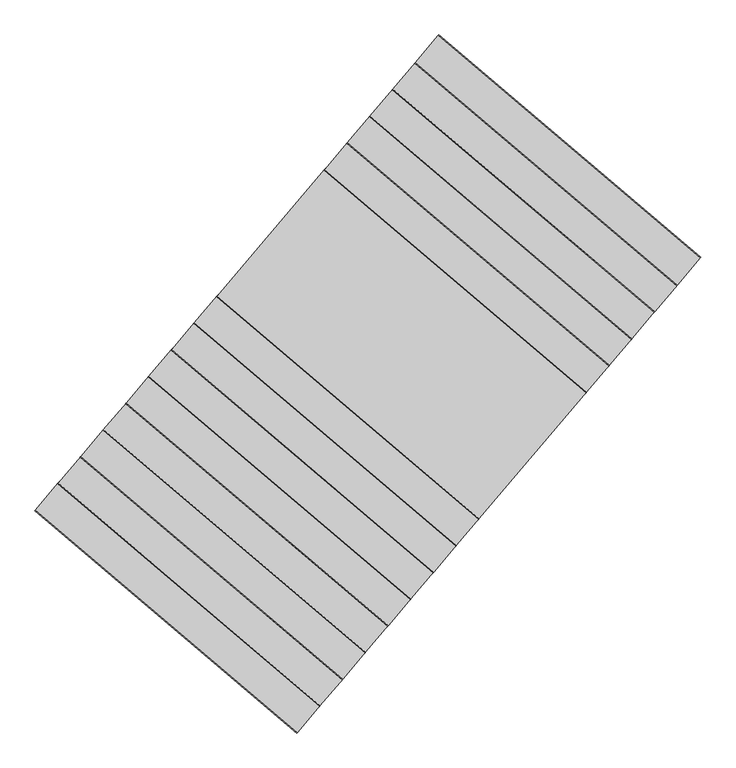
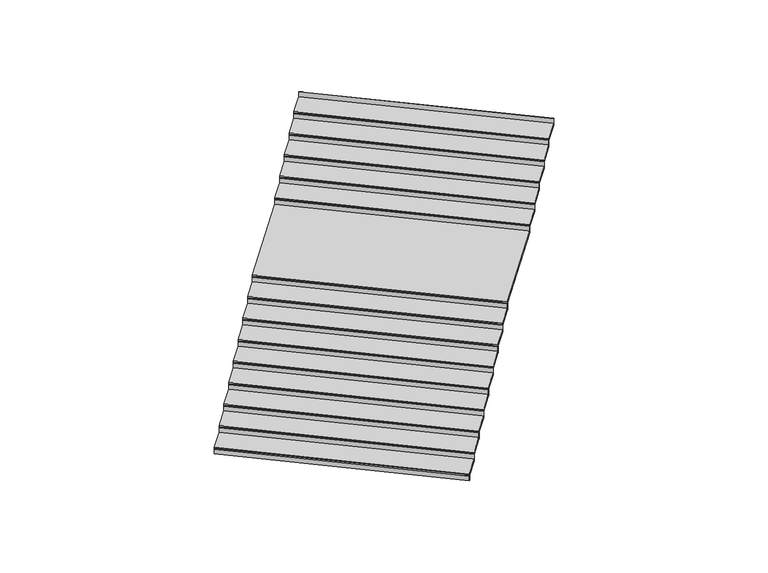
"""IFC4 building model written with IfcOpenShell, lengths in millimetres: stair flight geometry, Wood Steps with 50 mm Tread 20 mm Nosing 13 mm Riser."""

from ifc_helpers import new_model, si_unit, frame, origin, place, context, project, spatial, circle_curve, ellipse_curve, faceted_brep, source, transform, mapped, element, save
from ifc_brep_helpers import plane_surface, cylinder_surface, advanced_brep


def stair_flight_4f862e5f(model_context):
    return source(origin(), model_context, "Body", "SolidModel", [
        advanced_brep(
        [(923803.5182011, -27656.3931003, 5159.2941176), (923803.5182011, -27656.3931003, 5179.2941176), (919409.9283257, -23924.7444547, 5179.2941176), (919409.9283257, -23924.7444547, 5159.2941176), (919797.3389416, -23468.6650013, 5179.2941176), (924190.9030225, -27200.2917385, 5179.2941176), (919409.9283257, -23924.7444547, 5129.2941176), (919797.3389416, -23468.6650013, 5129.2941176), (924190.9030225, -27200.2917385, 5129.2941176), (923803.5182011, -27656.3931003, 5129.2941176)],
        [
            (0, 1, circle_curve(frame((923803.5182011, -27656.3931003, 5169.2941176), z_axis=(-0.7621877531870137, 0.6473560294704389, 0.0), x_axis=(0.6473560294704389, 0.7621877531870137, 0.0)), 10.0)),
            (1, 2),
            (2, 3, ellipse_curve(frame((919409.9283257, -23924.7444547, 5169.2941176), z_axis=(0.7621511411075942, -0.6473991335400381, 0.0), x_axis=(0.6473991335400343, 0.7621511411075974, 0.0)), 10.0, 10.0)),
            (3, 0),
            (4, 2),
            (1, 5),
            (5, 4),
            (6, 7),
            (7, 8),
            (8, 9),
            (9, 6),
            (4, 7),
            (6, 3),
            (9, 0),
            (8, 5),
        ],
        [
            cylinder_surface(frame((923803.5182011, -27656.3931003, 5169.2941176), z_axis=(0.7621877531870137, -0.6473560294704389, 0.0), x_axis=(0.6473560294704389, 0.7621877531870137, 0.0)), 10.0),
            plane_surface(frame((918833.8329872, -24602.9531469, 5179.2941176), z_axis=(0.0, 0.0, 1.0), x_axis=(-0.6473991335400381, -0.7621511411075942, 0.0))),
            plane_surface(frame((918833.8329872, -24602.9531469, 5129.2941176), z_axis=(0.0, 0.0, -1.0), x_axis=(0.6473991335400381, 0.7621511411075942, 0.0))),
            plane_surface(frame((919797.3389416, -23468.6650013, 5179.2941176), z_axis=(-0.7621511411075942, 0.6473991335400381, 0.0), x_axis=(0.0, 0.0, -1.0))),
            plane_surface(frame((919409.9283257, -23924.7444547, 5179.2941176), z_axis=(-0.6473560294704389, -0.7621877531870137, 0.0), x_axis=(0.0, 0.0, -1.0))),
            plane_surface(frame((923803.5182011, -27656.3931003, 5179.2941176), z_axis=(0.7621877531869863, -0.6473560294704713, 0.0), x_axis=(0.0, 0.0, -1.0))),
            plane_surface(frame((924190.9030225, -27200.2917385, 5179.2941176), z_axis=(0.647356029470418, 0.7621877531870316, 0.0), x_axis=(0.0, 0.0, -1.0))),
        ],
        [
            (0, [[1, 2, 3, 4]]),
            (1, [[5, -2, 6, 7]]),
            (2, [[8, 9, 10, 11]]),
            (3, [[-5, 12, -8, 13, -3]]),
            (4, [[-11, 14, -4, -13]]),
            (5, [[-6, -1, -14, -10, 15]]),
            (6, [[-7, -15, -9, -12]]),
        ],
    ),
        faceted_brep([(923809.9917614, -27648.7712228, 5129.2941176), (923809.9917614, -27648.7712228, 5000.0), (923818.0837118, -27639.2438758, 5000.0), (923818.0837118, -27639.2438758, 5129.2941176), (919416.4023171, -23917.1229433, 5129.2941176), (919424.4948063, -23907.596054, 5129.2941176), (919424.4948063, -23907.596054, 5000.0), (919416.4023171, -23917.1229433, 5000.0)], [[[0, 1, 2, 3]], [[4, 5, 6, 7]], [[1, 0, 4, 7]], [[2, 1, 7, 6]], [[3, 2, 6, 5]], [[0, 3, 5, 4]]]),
        faceted_brep([(924190.9030225, -27200.2917385, 5308.5882353), (924190.9030225, -27200.2917385, 5129.2941176), (924198.9949728, -27190.7643916, 5129.2941176), (924198.9949728, -27190.7643916, 5308.5882353), (919797.3389416, -23468.6650013, 5308.5882353), (919805.4314308, -23459.138112, 5308.5882353), (919805.4314308, -23459.138112, 5129.2941176), (919797.3389416, -23468.6650013, 5129.2941176)], [[[0, 1, 2, 3]], [[4, 5, 6, 7]], [[1, 0, 4, 7]], [[2, 1, 7, 6]], [[3, 2, 6, 5]], [[0, 3, 5, 4]]]),
        advanced_brep(
        [(920178.2755662, -23020.2070592, 5358.5882353), (919790.8649503, -23476.2865127, 5358.5882353), (924184.4294622, -27207.913616, 5358.5882353), (924571.8142835, -26751.8122542, 5358.5882353), (919790.8649503, -23476.2865127, 5308.5882353), (920178.2755662, -23020.2070592, 5308.5882353), (924571.8142835, -26751.8122542, 5308.5882353), (924184.4294622, -27207.913616, 5308.5882353), (919790.8649503, -23476.2865127, 5338.5882353), (924184.4294622, -27207.913616, 5338.5882353)],
        [
            (0, 1),
            (1, 2),
            (2, 3),
            (3, 0),
            (4, 5),
            (5, 6),
            (6, 7),
            (7, 4),
            (0, 5),
            (4, 8),
            (8, 1, ellipse_curve(frame((919790.8649503, -23476.2865127, 5348.5882353), z_axis=(-0.7621511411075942, 0.6473991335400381, 0.0), x_axis=(0.6473991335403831, 0.7621511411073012, 0.0)), 10.0, 10.0)),
            (7, 9),
            (9, 8),
            (2, 9, circle_curve(frame((924184.4294622, -27207.913616, 5348.5882353), z_axis=(0.7621877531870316, -0.647356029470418, 0.0), x_axis=(0.647356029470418, 0.7621877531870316, 0.0)), 10.0)),
            (6, 3),
        ],
        [
            plane_surface(frame((918833.8329872, -24602.9531469, 5358.5882353), z_axis=(0.0, 0.0, 1.0), x_axis=(-0.6473991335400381, -0.7621511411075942, 0.0))),
            plane_surface(frame((918833.8329872, -24602.9531469, 5308.5882353), z_axis=(0.0, 0.0, -1.0), x_axis=(0.6473991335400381, 0.7621511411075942, 0.0))),
            plane_surface(frame((920178.2755662, -23020.2070592, 5358.5882353), z_axis=(-0.7621511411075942, 0.6473991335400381, 0.0), x_axis=(0.0, 0.0, -1.0))),
            plane_surface(frame((919790.8649503, -23476.2865127, 5358.5882353), z_axis=(-0.647356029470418, -0.7621877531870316, 0.0), x_axis=(0.0, 0.0, -1.0))),
            plane_surface(frame((924184.4294622, -27207.913616, 5358.5882353), z_axis=(0.7621877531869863, -0.6473560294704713, 0.0), x_axis=(0.0, 0.0, -1.0))),
            plane_surface(frame((924571.8142835, -26751.8122542, 5358.5882353), z_axis=(0.6473560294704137, 0.7621877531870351, 0.0), x_axis=(0.0, 0.0, -1.0))),
            cylinder_surface(frame((924184.4294622, -27207.913616, 5348.5882353), z_axis=(0.7621877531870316, -0.647356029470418, 0.0), x_axis=(0.647356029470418, 0.7621877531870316, 0.0)), 10.0),
        ],
        [
            (0, [[1, 2, 3, 4]]),
            (1, [[5, 6, 7, 8]]),
            (2, [[-1, 9, -5, 10, 11]]),
            (3, [[-8, 12, 13, -10]]),
            (4, [[-3, 14, -12, -7, 15]]),
            (5, [[-4, -15, -6, -9]]),
            (6, [[-14, -2, -11, -13]]),
        ],
    ),
        faceted_brep([(924571.8142835, -26751.8122542, 5487.8823529), (924571.8142835, -26751.8122542, 5308.5882353), (924579.9062339, -26742.2849073, 5308.5882353), (924579.9062339, -26742.2849073, 5487.8823529), (920178.2755662, -23020.2070592, 5487.8823529), (920186.3680554, -23010.68017, 5487.8823529), (920186.3680554, -23010.68017, 5308.5882353), (920178.2755662, -23020.2070592, 5308.5882353)], [[[0, 1, 2, 3]], [[4, 5, 6, 7]], [[1, 0, 4, 7]], [[2, 1, 7, 6]], [[3, 2, 6, 5]], [[0, 3, 5, 4]]]),
        advanced_brep(
        [(920559.2121908, -22571.7491172, 5537.8823529), (920171.8015749, -23027.8285707, 5537.8823529), (924565.3407232, -26759.4341318, 5537.8823529), (924952.7255446, -26303.33277, 5537.8823529), (920171.8015749, -23027.8285707, 5487.8823529), (920559.2121908, -22571.7491172, 5487.8823529), (924952.7255446, -26303.33277, 5487.8823529), (924565.3407232, -26759.4341318, 5487.8823529), (920171.8015749, -23027.8285707, 5517.8823529), (924565.3407232, -26759.4341318, 5517.8823529)],
        [
            (0, 1),
            (1, 2),
            (2, 3),
            (3, 0),
            (4, 5),
            (5, 6),
            (6, 7),
            (7, 4),
            (0, 5),
            (4, 8),
            (8, 1, ellipse_curve(frame((920171.8015749, -23027.8285707, 5527.8823529), z_axis=(-0.7621511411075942, 0.6473991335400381, 0.0), x_axis=(0.6473991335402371, 0.7621511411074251, 0.0)), 10.0, 10.0)),
            (7, 9),
            (9, 8),
            (2, 9, circle_curve(frame((924565.3407232, -26759.4341318, 5527.8823529), z_axis=(0.7621877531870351, -0.6473560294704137, 0.0), x_axis=(0.6473560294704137, 0.7621877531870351, 0.0)), 10.0)),
            (6, 3),
        ],
        [
            plane_surface(frame((918833.8329872, -24602.9531469, 5537.8823529), z_axis=(0.0, 0.0, 1.0), x_axis=(-0.6473991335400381, -0.7621511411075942, 0.0))),
            plane_surface(frame((918833.8329872, -24602.9531469, 5487.8823529), z_axis=(0.0, 0.0, -1.0), x_axis=(0.6473991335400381, 0.7621511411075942, 0.0))),
            plane_surface(frame((920559.2121908, -22571.7491172, 5537.8823529), z_axis=(-0.7621511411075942, 0.6473991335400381, 0.0), x_axis=(0.0, 0.0, -1.0))),
            plane_surface(frame((920171.8015749, -23027.8285707, 5537.8823529), z_axis=(-0.6473560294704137, -0.7621877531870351, 0.0), x_axis=(0.0, 0.0, -1.0))),
            plane_surface(frame((924565.3407232, -26759.4341318, 5537.8823529), z_axis=(0.7621877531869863, -0.6473560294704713, 0.0), x_axis=(0.0, 0.0, -1.0))),
            plane_surface(frame((924952.7255446, -26303.33277, 5537.8823529), z_axis=(0.6473560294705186, 0.7621877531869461, 0.0), x_axis=(0.0, 0.0, -1.0))),
            cylinder_surface(frame((924565.3407232, -26759.4341318, 5527.8823529), z_axis=(0.7621877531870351, -0.6473560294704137, 0.0), x_axis=(0.6473560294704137, 0.7621877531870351, 0.0)), 10.0),
        ],
        [
            (0, [[1, 2, 3, 4]]),
            (1, [[5, 6, 7, 8]]),
            (2, [[-1, 9, -5, 10, 11]]),
            (3, [[-8, 12, 13, -10]]),
            (4, [[-3, 14, -12, -7, 15]]),
            (5, [[-4, -15, -6, -9]]),
            (6, [[-14, -2, -11, -13]]),
        ],
    ),
        faceted_brep([(924952.7255446, -26303.33277, 5667.1764706), (924952.7255446, -26303.33277, 5487.8823529), (924960.8174949, -26293.8054231, 5487.8823529), (924960.8174949, -26293.8054231, 5667.1764706), (920559.2121908, -22571.7491172, 5667.1764706), (920567.3046799, -22562.2222279, 5667.1764706), (920567.3046799, -22562.2222279, 5487.8823529), (920559.2121908, -22571.7491172, 5487.8823529)], [[[0, 1, 2, 3]], [[4, 5, 6, 7]], [[1, 0, 4, 7]], [[2, 1, 7, 6]], [[3, 2, 6, 5]], [[0, 3, 5, 4]]]),
        advanced_brep(
        [(920940.1488153, -22123.2911752, 5717.1764706), (920552.7381994, -22579.3706286, 5717.1764706), (924946.2519843, -26310.9546475, 5717.1764706), (925333.6368056, -25854.8532857, 5717.1764706), (920552.7381994, -22579.3706286, 5667.1764706), (920940.1488153, -22123.2911752, 5667.1764706), (925333.6368056, -25854.8532857, 5667.1764706), (924946.2519843, -26310.9546475, 5667.1764706), (920552.7381994, -22579.3706286, 5697.1764706), (924946.2519843, -26310.9546475, 5697.1764706)],
        [
            (0, 1),
            (1, 2),
            (2, 3),
            (3, 0),
            (4, 5),
            (5, 6),
            (6, 7),
            (7, 4),
            (0, 5),
            (4, 8),
            (8, 1, ellipse_curve(frame((920552.7381994, -22579.3706286, 5707.1764706), z_axis=(-0.7621511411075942, 0.6473991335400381, 0.0), x_axis=(0.6473991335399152, 0.7621511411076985, 0.0)), 10.0, 10.0)),
            (7, 9),
            (9, 8),
            (2, 9, circle_curve(frame((924946.2519843, -26310.9546475, 5707.1764706), z_axis=(0.7621877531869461, -0.6473560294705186, 0.0), x_axis=(0.6473560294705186, 0.7621877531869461, 0.0)), 10.0)),
            (6, 3),
        ],
        [
            plane_surface(frame((918833.8329872, -24602.9531469, 5717.1764706), z_axis=(0.0, 0.0, 1.0), x_axis=(-0.6473991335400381, -0.7621511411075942, 0.0))),
            plane_surface(frame((918833.8329872, -24602.9531469, 5667.1764706), z_axis=(0.0, 0.0, -1.0), x_axis=(0.6473991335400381, 0.7621511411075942, 0.0))),
            plane_surface(frame((920940.1488153, -22123.2911752, 5717.1764706), z_axis=(-0.7621511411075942, 0.6473991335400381, 0.0), x_axis=(0.0, 0.0, -1.0))),
            plane_surface(frame((920552.7381994, -22579.3706286, 5717.1764706), z_axis=(-0.6473560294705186, -0.7621877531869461, 0.0), x_axis=(0.0, 0.0, -1.0))),
            plane_surface(frame((924946.2519843, -26310.9546475, 5717.1764706), z_axis=(0.7621877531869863, -0.6473560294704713, 0.0), x_axis=(0.0, 0.0, -1.0))),
            plane_surface(frame((925333.6368056, -25854.8532857, 5717.1764706), z_axis=(0.6473560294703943, 0.7621877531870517, 0.0), x_axis=(0.0, 0.0, -1.0))),
            cylinder_surface(frame((924946.2519843, -26310.9546475, 5707.1764706), z_axis=(0.7621877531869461, -0.6473560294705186, 0.0), x_axis=(0.6473560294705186, 0.7621877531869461, 0.0)), 10.0),
        ],
        [
            (0, [[1, 2, 3, 4]]),
            (1, [[5, 6, 7, 8]]),
            (2, [[-1, 9, -5, 10, 11]]),
            (3, [[-8, 12, 13, -10]]),
            (4, [[-3, 14, -12, -7, 15]]),
            (5, [[-4, -15, -6, -9]]),
            (6, [[-14, -2, -11, -13]]),
        ],
    ),
        faceted_brep([(925333.6368056, -25854.8532857, 5846.4705882), (925333.6368056, -25854.8532857, 5667.1764706), (925341.728756, -25845.3259388, 5667.1764706), (925341.728756, -25845.3259388, 5846.4705882), (920940.1488153, -22123.2911752, 5846.4705882), (920948.2413045, -22113.7642859, 5846.4705882), (920948.2413045, -22113.7642859, 5667.1764706), (920940.1488153, -22123.2911752, 5667.1764706)], [[[0, 1, 2, 3]], [[4, 5, 6, 7]], [[1, 0, 4, 7]], [[2, 1, 7, 6]], [[3, 2, 6, 5]], [[0, 3, 5, 4]]]),
        advanced_brep(
        [(921321.0854399, -21674.8332331, 5896.4705882), (920933.674824, -22130.9126866, 5896.4705882), (925327.1632453, -25862.4751633, 5896.4705882), (925714.5480667, -25406.3738015, 5896.4705882), (920933.674824, -22130.9126866, 5846.4705882), (921321.0854399, -21674.8332331, 5846.4705882), (925714.5480667, -25406.3738015, 5846.4705882), (925327.1632453, -25862.4751633, 5846.4705882), (920933.674824, -22130.9126866, 5876.4705882), (925327.1632453, -25862.4751633, 5876.4705882)],
        [
            (0, 1),
            (1, 2),
            (2, 3),
            (3, 0),
            (4, 5),
            (5, 6),
            (6, 7),
            (7, 4),
            (0, 5),
            (4, 8),
            (8, 1, ellipse_curve(frame((920933.674824, -22130.9126866, 5886.4705882), z_axis=(-0.7621511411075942, 0.6473991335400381, 0.0), x_axis=(0.6473991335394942, 0.762151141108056, 0.0)), 10.0, 10.0)),
            (7, 9),
            (9, 8),
            (2, 9, circle_curve(frame((925327.1632453, -25862.4751633, 5886.4705882), z_axis=(0.7621877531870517, -0.6473560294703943, 0.0), x_axis=(0.6473560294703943, 0.7621877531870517, 0.0)), 10.0)),
            (6, 3),
        ],
        [
            plane_surface(frame((918833.8329872, -24602.9531469, 5896.4705882), z_axis=(0.0, 0.0, 1.0), x_axis=(-0.6473991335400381, -0.7621511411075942, 0.0))),
            plane_surface(frame((918833.8329872, -24602.9531469, 5846.4705882), z_axis=(0.0, 0.0, -1.0), x_axis=(0.6473991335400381, 0.7621511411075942, 0.0))),
            plane_surface(frame((921321.0854399, -21674.8332331, 5896.4705882), z_axis=(-0.7621511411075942, 0.6473991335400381, 0.0), x_axis=(0.0, 0.0, -1.0))),
            plane_surface(frame((920933.674824, -22130.9126866, 5896.4705882), z_axis=(-0.6473560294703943, -0.7621877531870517, 0.0), x_axis=(0.0, 0.0, -1.0))),
            plane_surface(frame((925327.1632453, -25862.4751633, 5896.4705882), z_axis=(0.7621877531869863, -0.6473560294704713, 0.0), x_axis=(0.0, 0.0, -1.0))),
            plane_surface(frame((925714.5480667, -25406.3738015, 5896.4705882), z_axis=(0.6473560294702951, 0.7621877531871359, 0.0), x_axis=(0.0, 0.0, -1.0))),
            cylinder_surface(frame((925327.1632453, -25862.4751633, 5886.4705882), z_axis=(0.7621877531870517, -0.6473560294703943, 0.0), x_axis=(0.6473560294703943, 0.7621877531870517, 0.0)), 10.0),
        ],
        [
            (0, [[1, 2, 3, 4]]),
            (1, [[5, 6, 7, 8]]),
            (2, [[-1, 9, -5, 10, 11]]),
            (3, [[-8, 12, 13, -10]]),
            (4, [[-3, 14, -12, -7, 15]]),
            (5, [[-4, -15, -6, -9]]),
            (6, [[-14, -2, -11, -13]]),
        ],
    ),
        faceted_brep([(925714.5480667, -25406.3738015, 6025.7647059), (925714.5480667, -25406.3738015, 5846.4705882), (925722.640017, -25396.8464546, 5846.4705882), (925722.640017, -25396.8464546, 6025.7647059), (921321.0854399, -21674.8332331, 6025.7647059), (921329.1779291, -21665.3063439, 6025.7647059), (921329.1779291, -21665.3063439, 5846.4705882), (921321.0854399, -21674.8332331, 5846.4705882)], [[[0, 1, 2, 3]], [[4, 5, 6, 7]], [[1, 0, 4, 7]], [[2, 1, 7, 6]], [[3, 2, 6, 5]], [[0, 3, 5, 4]]]),
        advanced_brep(
        [(921702.0220644, -21226.3752911, 6075.7647059), (921314.6114485, -21682.4547446, 6075.7647059), (925708.0745064, -25413.995679, 6075.7647059), (926095.4593277, -24957.8943172, 6075.7647059), (921314.6114485, -21682.4547446, 6025.7647059), (921702.0220644, -21226.3752911, 6025.7647059), (926095.4593277, -24957.8943172, 6025.7647059), (925708.0745064, -25413.995679, 6025.7647059), (921314.6114485, -21682.4547446, 6055.7647059), (925708.0745064, -25413.995679, 6055.7647059)],
        [
            (0, 1),
            (1, 2),
            (2, 3),
            (3, 0),
            (4, 5),
            (5, 6),
            (6, 7),
            (7, 4),
            (0, 5),
            (4, 8),
            (8, 1, ellipse_curve(frame((921314.6114485, -21682.4547446, 6065.7647059), z_axis=(-0.7621511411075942, 0.6473991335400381, 0.0), x_axis=(0.647399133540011, 0.7621511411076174, 0.0)), 10.0, 10.0)),
            (7, 9),
            (9, 8),
            (2, 9, circle_curve(frame((925708.0745064, -25413.995679, 6065.7647059), z_axis=(0.7621877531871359, -0.6473560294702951, 0.0), x_axis=(0.6473560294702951, 0.7621877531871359, 0.0)), 10.0)),
            (6, 3),
        ],
        [
            plane_surface(frame((918833.8329872, -24602.9531469, 6075.7647059), z_axis=(0.0, 0.0, 1.0), x_axis=(-0.6473991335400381, -0.7621511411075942, 0.0))),
            plane_surface(frame((918833.8329872, -24602.9531469, 6025.7647059), z_axis=(0.0, 0.0, -1.0), x_axis=(0.6473991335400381, 0.7621511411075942, 0.0))),
            plane_surface(frame((921702.0220644, -21226.3752911, 6075.7647059), z_axis=(-0.7621511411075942, 0.6473991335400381, 0.0), x_axis=(0.0, 0.0, -1.0))),
            plane_surface(frame((921314.6114485, -21682.4547446, 6075.7647059), z_axis=(-0.6473560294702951, -0.7621877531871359, 0.0), x_axis=(0.0, 0.0, -1.0))),
            plane_surface(frame((925708.0745064, -25413.995679, 6075.7647059), z_axis=(0.7621877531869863, -0.6473560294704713, 0.0), x_axis=(0.0, 0.0, -1.0))),
            plane_surface(frame((926095.4593277, -24957.8943172, 6075.7647059), z_axis=(0.6473560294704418, 0.7621877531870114, 0.0), x_axis=(0.0, 0.0, -1.0))),
            cylinder_surface(frame((925708.0745064, -25413.995679, 6065.7647059), z_axis=(0.7621877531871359, -0.6473560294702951, 0.0), x_axis=(0.6473560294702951, 0.7621877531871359, 0.0)), 10.0),
        ],
        [
            (0, [[1, 2, 3, 4]]),
            (1, [[5, 6, 7, 8]]),
            (2, [[-1, 9, -5, 10, 11]]),
            (3, [[-8, 12, 13, -10]]),
            (4, [[-3, 14, -12, -7, 15]]),
            (5, [[-4, -15, -6, -9]]),
            (6, [[-14, -2, -11, -13]]),
        ],
    ),
        faceted_brep([(926095.4593277, -24957.8943172, 6205.0588235), (926095.4593277, -24957.8943172, 6025.7647059), (926103.5512781, -24948.3669703, 6025.7647059), (926103.5512781, -24948.3669703, 6205.0588235), (921702.0220644, -21226.3752911, 6205.0588235), (921710.1145536, -21216.8484018, 6205.0588235), (921710.1145536, -21216.8484018, 6025.7647059), (921702.0220644, -21226.3752911, 6025.7647059)], [[[0, 1, 2, 3]], [[4, 5, 6, 7]], [[1, 0, 4, 7]], [[2, 1, 7, 6]], [[3, 2, 6, 5]], [[0, 3, 5, 4]]]),
        advanced_brep(
        [(922082.958689, -20777.9173491, 6255.0588235), (921695.5480731, -21233.9968025, 6255.0588235), (926088.9857674, -24965.5161948, 6255.0588235), (926476.3705888, -24509.414833, 6255.0588235), (921695.5480731, -21233.9968025, 6205.0588235), (922082.958689, -20777.9173491, 6205.0588235), (926476.3705888, -24509.414833, 6205.0588235), (926088.9857674, -24965.5161948, 6205.0588235), (921695.5480731, -21233.9968025, 6235.0588235), (926088.9857674, -24965.5161948, 6235.0588235)],
        [
            (0, 1),
            (1, 2),
            (2, 3),
            (3, 0),
            (4, 5),
            (5, 6),
            (6, 7),
            (7, 4),
            (0, 5),
            (4, 8),
            (8, 1, ellipse_curve(frame((921695.5480731, -21233.9968025, 6245.0588235), z_axis=(-0.7621511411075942, 0.6473991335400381, 0.0), x_axis=(0.6473991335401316, 0.7621511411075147, 0.0)), 10.0, 10.0)),
            (7, 9),
            (9, 8),
            (2, 9, circle_curve(frame((926088.9857674, -24965.5161948, 6245.0588235), z_axis=(0.7621877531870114, -0.6473560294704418, 0.0), x_axis=(0.6473560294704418, 0.7621877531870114, 0.0)), 10.0)),
            (6, 3),
        ],
        [
            plane_surface(frame((918833.8329872, -24602.9531469, 6255.0588235), z_axis=(0.0, 0.0, 1.0), x_axis=(-0.6473991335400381, -0.7621511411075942, 0.0))),
            plane_surface(frame((918833.8329872, -24602.9531469, 6205.0588235), z_axis=(0.0, 0.0, -1.0), x_axis=(0.6473991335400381, 0.7621511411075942, 0.0))),
            plane_surface(frame((922082.958689, -20777.9173491, 6255.0588235), z_axis=(-0.7621511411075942, 0.6473991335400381, 0.0), x_axis=(0.0, 0.0, -1.0))),
            plane_surface(frame((921695.5480731, -21233.9968025, 6255.0588235), z_axis=(-0.6473560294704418, -0.7621877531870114, 0.0), x_axis=(0.0, 0.0, -1.0))),
            plane_surface(frame((926088.9857674, -24965.5161948, 6255.0588235), z_axis=(0.7621877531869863, -0.6473560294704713, 0.0), x_axis=(0.0, 0.0, -1.0))),
            plane_surface(frame((926476.3705888, -24509.414833, 6255.0588235), z_axis=(0.6473560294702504, 0.7621877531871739, 0.0), x_axis=(0.0, 0.0, -1.0))),
            cylinder_surface(frame((926088.9857674, -24965.5161948, 6245.0588235), z_axis=(0.7621877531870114, -0.6473560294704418, 0.0), x_axis=(0.6473560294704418, 0.7621877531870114, 0.0)), 10.0),
        ],
        [
            (0, [[1, 2, 3, 4]]),
            (1, [[5, 6, 7, 8]]),
            (2, [[-1, 9, -5, 10, 11]]),
            (3, [[-8, 12, 13, -10]]),
            (4, [[-3, 14, -12, -7, 15]]),
            (5, [[-4, -15, -6, -9]]),
            (6, [[-14, -2, -11, -13]]),
        ],
    ),
        faceted_brep([(926476.3705888, -24509.414833, 6384.3529412), (926476.3705888, -24509.414833, 6205.0588235), (926484.4625392, -24499.8874861, 6205.0588235), (926484.4625392, -24499.8874861, 6384.3529412), (922082.958689, -20777.9173491, 6384.3529412), (922091.0511782, -20768.3904598, 6384.3529412), (922091.0511782, -20768.3904598, 6205.0588235), (922082.958689, -20777.9173491, 6205.0588235)], [[[0, 1, 2, 3]], [[4, 5, 6, 7]], [[1, 0, 4, 7]], [[2, 1, 7, 6]], [[3, 2, 6, 5]], [[0, 3, 5, 4]]]),
        advanced_brep(
        [(922463.8953136, -20329.4594071, 6434.3529412), (922076.4846977, -20785.5388605, 6434.3529412), (926469.8970285, -24517.0367105, 6434.3529412), (926857.2818498, -24060.9353487, 6434.3529412), (922076.4846977, -20785.5388605, 6384.3529412), (922463.8953136, -20329.4594071, 6384.3529412), (926857.2818498, -24060.9353487, 6384.3529412), (926469.8970285, -24517.0367105, 6384.3529412), (922076.4846977, -20785.5388605, 6414.3529412), (926469.8970285, -24517.0367105, 6414.3529412)],
        [
            (0, 1),
            (1, 2),
            (2, 3),
            (3, 0),
            (4, 5),
            (5, 6),
            (6, 7),
            (7, 4),
            (0, 5),
            (4, 8),
            (8, 1, ellipse_curve(frame((922076.4846977, -20785.5388605, 6424.3529412), z_axis=(-0.7621511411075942, 0.6473991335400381, 0.0), x_axis=(0.6473991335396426, 0.7621511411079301, 0.0)), 10.0, 10.0)),
            (7, 9),
            (9, 8),
            (2, 9, circle_curve(frame((926469.8970285, -24517.0367105, 6424.3529412), z_axis=(0.7621877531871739, -0.6473560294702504, 0.0), x_axis=(0.6473560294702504, 0.7621877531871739, 0.0)), 10.0)),
            (6, 3),
        ],
        [
            plane_surface(frame((918833.8329872, -24602.9531469, 6434.3529412), z_axis=(0.0, 0.0, 1.0), x_axis=(-0.6473991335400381, -0.7621511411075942, 0.0))),
            plane_surface(frame((918833.8329872, -24602.9531469, 6384.3529412), z_axis=(0.0, 0.0, -1.0), x_axis=(0.6473991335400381, 0.7621511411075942, 0.0))),
            plane_surface(frame((922463.8953136, -20329.4594071, 6434.3529412), z_axis=(-0.7621511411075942, 0.6473991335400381, 0.0), x_axis=(0.0, 0.0, -1.0))),
            plane_surface(frame((922076.4846977, -20785.5388605, 6434.3529412), z_axis=(-0.6473560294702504, -0.7621877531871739, 0.0), x_axis=(0.0, 0.0, -1.0))),
            plane_surface(frame((926469.8970285, -24517.0367105, 6434.3529412), z_axis=(0.7621877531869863, -0.6473560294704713, 0.0), x_axis=(0.0, 0.0, -1.0))),
            plane_surface(frame((926857.2818498, -24060.9353487, 6434.3529412), z_axis=(0.647356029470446, 0.7621877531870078, 0.0), x_axis=(0.0, 0.0, -1.0))),
            cylinder_surface(frame((926469.8970285, -24517.0367105, 6424.3529412), z_axis=(0.7621877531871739, -0.6473560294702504, 0.0), x_axis=(0.6473560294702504, 0.7621877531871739, 0.0)), 10.0),
        ],
        [
            (0, [[1, 2, 3, 4]]),
            (1, [[5, 6, 7, 8]]),
            (2, [[-1, 9, -5, 10, 11]]),
            (3, [[-8, 12, 13, -10]]),
            (4, [[-3, 14, -12, -7, 15]]),
            (5, [[-4, -15, -6, -9]]),
            (6, [[-14, -2, -11, -13]]),
        ],
    ),
        faceted_brep([(926857.2818498, -24060.9353487, 6563.6470588), (926857.2818498, -24060.9353487, 6384.3529412), (926865.3738002, -24051.4080018, 6384.3529412), (926865.3738002, -24051.4080018, 6563.6470588), (922463.8953136, -20329.4594071, 6563.6470588), (922471.9878027, -20319.9325178, 6563.6470588), (922471.9878027, -20319.9325178, 6384.3529412), (922463.8953136, -20329.4594071, 6384.3529412)], [[[0, 1, 2, 3]], [[4, 5, 6, 7]], [[1, 0, 4, 7]], [[2, 1, 7, 6]], [[3, 2, 6, 5]], [[0, 3, 5, 4]]]),
        advanced_brep(
        [(924266.9953365, -18206.7584815, 6613.6470588), (922457.4213222, -20337.0809185, 6613.6470588), (926850.8082895, -24068.5572263, 6613.6470588), (928660.2618188, -21938.1324566, 6613.6470588), (922457.4213222, -20337.0809185, 6563.6470588), (924266.9953365, -18206.7584815, 6563.6470588), (928660.2618188, -21938.1324566, 6563.6470588), (926850.8082895, -24068.5572263, 6563.6470588), (922457.4213222, -20337.0809185, 6593.6470588), (926850.8082895, -24068.5572263, 6593.6470588)],
        [
            (0, 1),
            (1, 2),
            (2, 3),
            (3, 0),
            (4, 5),
            (5, 6),
            (6, 7),
            (7, 4),
            (0, 5),
            (4, 8),
            (8, 1, ellipse_curve(frame((922457.4213222, -20337.0809185, 6603.6470588), z_axis=(-0.7621511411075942, 0.6473991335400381, 0.0), x_axis=(0.6473991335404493, 0.7621511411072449, 0.0)), 10.0, 10.0)),
            (7, 9),
            (9, 8),
            (2, 9, circle_curve(frame((926850.8082895, -24068.5572263, 6603.6470588), z_axis=(0.7621877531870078, -0.647356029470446, 0.0), x_axis=(0.647356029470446, 0.7621877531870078, 0.0)), 10.0)),
            (6, 3),
        ],
        [
            plane_surface(frame((918833.8329872, -24602.9531469, 6613.6470588), z_axis=(0.0, 0.0, 1.0), x_axis=(-0.6473991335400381, -0.7621511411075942, 0.0))),
            plane_surface(frame((918833.8329872, -24602.9531469, 6563.6470588), z_axis=(0.0, 0.0, -1.0), x_axis=(0.6473991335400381, 0.7621511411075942, 0.0))),
            plane_surface(frame((924266.9953365, -18206.7584815, 6613.6470588), z_axis=(-0.7621511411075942, 0.6473991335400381, 0.0), x_axis=(0.0, 0.0, -1.0))),
            plane_surface(frame((922457.4213222, -20337.0809185, 6613.6470588), z_axis=(-0.647356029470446, -0.7621877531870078, 0.0), x_axis=(0.0, 0.0, -1.0))),
            plane_surface(frame((926850.8082895, -24068.5572263, 6613.6470588), z_axis=(0.7621877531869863, -0.6473560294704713, 0.0), x_axis=(0.0, 0.0, -1.0))),
            plane_surface(frame((928660.2618188, -21938.1324566, 6613.6470588), z_axis=(0.6473560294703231, 0.7621877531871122, 0.0), x_axis=(0.0, 0.0, -1.0))),
            cylinder_surface(frame((926850.8082895, -24068.5572263, 6603.6470588), z_axis=(0.7621877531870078, -0.647356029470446, 0.0), x_axis=(0.647356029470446, 0.7621877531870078, 0.0)), 10.0),
        ],
        [
            (0, [[1, 2, 3, 4]]),
            (1, [[5, 6, 7, 8]]),
            (2, [[-1, 9, -5, 10, 11]]),
            (3, [[-8, 12, 13, -10]]),
            (4, [[-3, 14, -12, -7, 15]]),
            (5, [[-4, -15, -6, -9]]),
            (6, [[-14, -2, -11, -13]]),
        ],
    ),
        faceted_brep([(928660.2618188, -21938.1324566, 6742.9411765), (928660.2618188, -21938.1324566, 6563.6470588), (928668.3537692, -21928.6051097, 6563.6470588), (928668.3537692, -21928.6051097, 6742.9411765), (924266.9953365, -18206.7584815, 6742.9411765), (924275.0878257, -18197.2315922, 6742.9411765), (924275.0878257, -18197.2315922, 6563.6470588), (924266.9953365, -18206.7584815, 6563.6470588)], [[[0, 1, 2, 3]], [[4, 5, 6, 7]], [[1, 0, 4, 7]], [[2, 1, 7, 6]], [[3, 2, 6, 5]], [[0, 3, 5, 4]]]),
        advanced_brep(
        [(924647.931961, -17758.3005394, 6792.9411765), (924260.5213451, -18214.3799929, 6792.9411765), (928653.7882585, -21945.7543341, 6792.9411765), (929041.1730799, -21489.6529724, 6792.9411765), (924260.5213451, -18214.3799929, 6742.9411765), (924647.931961, -17758.3005394, 6742.9411765), (929041.1730799, -21489.6529724, 6742.9411765), (928653.7882585, -21945.7543341, 6742.9411765), (924260.5213451, -18214.3799929, 6772.9411765), (928653.7882585, -21945.7543341, 6772.9411765)],
        [
            (0, 1),
            (1, 2),
            (2, 3),
            (3, 0),
            (4, 5),
            (5, 6),
            (6, 7),
            (7, 4),
            (0, 5),
            (4, 8),
            (8, 1, ellipse_curve(frame((924260.5213451, -18214.3799929, 6782.9411765), z_axis=(-0.7621511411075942, 0.6473991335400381, 0.0), x_axis=(0.647399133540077, 0.762151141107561, 0.0)), 10.0, 10.0)),
            (7, 9),
            (9, 8),
            (2, 9, circle_curve(frame((928653.7882585, -21945.7543341, 6782.9411765), z_axis=(0.7621877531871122, -0.6473560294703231, 0.0), x_axis=(0.6473560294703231, 0.7621877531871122, 0.0)), 10.0)),
            (6, 3),
        ],
        [
            plane_surface(frame((918833.8329872, -24602.9531469, 6792.9411765), z_axis=(0.0, 0.0, 1.0), x_axis=(-0.6473991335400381, -0.7621511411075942, 0.0))),
            plane_surface(frame((918833.8329872, -24602.9531469, 6742.9411765), z_axis=(0.0, 0.0, -1.0), x_axis=(0.6473991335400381, 0.7621511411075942, 0.0))),
            plane_surface(frame((924647.931961, -17758.3005394, 6792.9411765), z_axis=(-0.7621511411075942, 0.6473991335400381, 0.0), x_axis=(0.0, 0.0, -1.0))),
            plane_surface(frame((924260.5213451, -18214.3799929, 6792.9411765), z_axis=(-0.6473560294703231, -0.7621877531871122, 0.0), x_axis=(0.0, 0.0, -1.0))),
            plane_surface(frame((928653.7882585, -21945.7543341, 6792.9411765), z_axis=(0.7621877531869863, -0.6473560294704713, 0.0), x_axis=(0.0, 0.0, -1.0))),
            plane_surface(frame((929041.1730799, -21489.6529724, 6792.9411765), z_axis=(0.6473560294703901, 0.7621877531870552, 0.0), x_axis=(0.0, 0.0, -1.0))),
            cylinder_surface(frame((928653.7882585, -21945.7543341, 6782.9411765), z_axis=(0.7621877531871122, -0.6473560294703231, 0.0), x_axis=(0.6473560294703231, 0.7621877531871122, 0.0)), 10.0),
        ],
        [
            (0, [[1, 2, 3, 4]]),
            (1, [[5, 6, 7, 8]]),
            (2, [[-1, 9, -5, 10, 11]]),
            (3, [[-8, 12, 13, -10]]),
            (4, [[-3, 14, -12, -7, 15]]),
            (5, [[-4, -15, -6, -9]]),
            (6, [[-14, -2, -11, -13]]),
        ],
    ),
        faceted_brep([(929041.1730799, -21489.6529724, 6922.2352941), (929041.1730799, -21489.6529724, 6742.9411765), (929049.2650302, -21480.1256254, 6742.9411765), (929049.2650302, -21480.1256254, 6922.2352941), (924647.931961, -17758.3005394, 6922.2352941), (924656.0244502, -17748.7736502, 6922.2352941), (924656.0244502, -17748.7736502, 6742.9411765), (924647.931961, -17758.3005394, 6742.9411765)], [[[0, 1, 2, 3]], [[4, 5, 6, 7]], [[1, 0, 4, 7]], [[2, 1, 7, 6]], [[3, 2, 6, 5]], [[0, 3, 5, 4]]]),
        advanced_brep(
        [(925028.8685856, -17309.8425974, 6972.2352941), (924641.4579697, -17765.9220509, 6972.2352941), (929034.6995196, -21497.2748499, 6972.2352941), (929422.0843409, -21041.1734881, 6972.2352941), (924641.4579697, -17765.9220509, 6922.2352941), (925028.8685856, -17309.8425974, 6922.2352941), (929422.0843409, -21041.1734881, 6922.2352941), (929034.6995196, -21497.2748499, 6922.2352941), (924641.4579697, -17765.9220509, 6952.2352941), (929034.6995196, -21497.2748499, 6952.2352941)],
        [
            (0, 1),
            (1, 2),
            (2, 3),
            (3, 0),
            (4, 5),
            (5, 6),
            (6, 7),
            (7, 4),
            (0, 5),
            (4, 8),
            (8, 1, ellipse_curve(frame((924641.4579697, -17765.9220509, 6962.2352941), z_axis=(-0.7621511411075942, 0.6473991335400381, 0.0), x_axis=(0.647399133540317, 0.7621511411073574, 0.0)), 10.0, 10.0)),
            (7, 9),
            (9, 8),
            (2, 9, circle_curve(frame((929034.6995196, -21497.2748499, 6962.2352941), z_axis=(0.7621877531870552, -0.6473560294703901, 0.0), x_axis=(0.6473560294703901, 0.7621877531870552, 0.0)), 10.0)),
            (6, 3),
        ],
        [
            plane_surface(frame((918833.8329872, -24602.9531469, 6972.2352941), z_axis=(0.0, 0.0, 1.0), x_axis=(-0.6473991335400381, -0.7621511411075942, 0.0))),
            plane_surface(frame((918833.8329872, -24602.9531469, 6922.2352941), z_axis=(0.0, 0.0, -1.0), x_axis=(0.6473991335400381, 0.7621511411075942, 0.0))),
            plane_surface(frame((925028.8685856, -17309.8425974, 6972.2352941), z_axis=(-0.7621511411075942, 0.6473991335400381, 0.0), x_axis=(0.0, 0.0, -1.0))),
            plane_surface(frame((924641.4579697, -17765.9220509, 6972.2352941), z_axis=(-0.6473560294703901, -0.7621877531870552, 0.0), x_axis=(0.0, 0.0, -1.0))),
            plane_surface(frame((929034.6995196, -21497.2748499, 6972.2352941), z_axis=(0.7621877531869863, -0.6473560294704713, 0.0), x_axis=(0.0, 0.0, -1.0))),
            plane_surface(frame((929422.0843409, -21041.1734881, 6972.2352941), z_axis=(0.6473560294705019, 0.7621877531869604, 0.0), x_axis=(0.0, 0.0, -1.0))),
            cylinder_surface(frame((929034.6995196, -21497.2748499, 6962.2352941), z_axis=(0.7621877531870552, -0.6473560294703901, 0.0), x_axis=(0.6473560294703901, 0.7621877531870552, 0.0)), 10.0),
        ],
        [
            (0, [[1, 2, 3, 4]]),
            (1, [[5, 6, 7, 8]]),
            (2, [[-1, 9, -5, 10, 11]]),
            (3, [[-8, 12, 13, -10]]),
            (4, [[-3, 14, -12, -7, 15]]),
            (5, [[-4, -15, -6, -9]]),
            (6, [[-14, -2, -11, -13]]),
        ],
    ),
        faceted_brep([(929422.0843409, -21041.1734881, 7101.5294118), (929422.0843409, -21041.1734881, 6922.2352941), (929430.1762913, -21031.6461412, 6922.2352941), (929430.1762913, -21031.6461412, 7101.5294118), (925028.8685856, -17309.8425974, 7101.5294118), (925036.9610748, -17300.3157081, 7101.5294118), (925036.9610748, -17300.3157081, 6922.2352941), (925028.8685856, -17309.8425974, 6922.2352941)], [[[0, 1, 2, 3]], [[4, 5, 6, 7]], [[1, 0, 4, 7]], [[2, 1, 7, 6]], [[3, 2, 6, 5]], [[0, 3, 5, 4]]]),
        advanced_brep(
        [(925409.8052102, -16861.3846554, 7151.5294118), (925022.3945942, -17317.4641088, 7151.5294118), (929415.6107806, -21048.7953656, 7151.5294118), (929802.995602, -20592.6940038, 7151.5294118), (925022.3945942, -17317.4641088, 7101.5294118), (925409.8052102, -16861.3846554, 7101.5294118), (929802.995602, -20592.6940038, 7101.5294118), (929415.6107806, -21048.7953656, 7101.5294118), (925022.3945942, -17317.4641088, 7131.5294118), (929415.6107806, -21048.7953656, 7131.5294118)],
        [
            (0, 1),
            (1, 2),
            (2, 3),
            (3, 0),
            (4, 5),
            (5, 6),
            (6, 7),
            (7, 4),
            (0, 5),
            (4, 8),
            (8, 1, ellipse_curve(frame((925022.3945942, -17317.4641088, 7141.5294118), z_axis=(-0.7621511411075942, 0.6473991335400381, 0.0), x_axis=(0.6473991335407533, 0.7621511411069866, 0.0)), 10.0, 10.0)),
            (7, 9),
            (9, 8),
            (2, 9, circle_curve(frame((929415.6107806, -21048.7953656, 7141.5294118), z_axis=(0.7621877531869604, -0.6473560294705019, 0.0), x_axis=(0.6473560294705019, 0.7621877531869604, 0.0)), 10.0)),
            (6, 3),
        ],
        [
            plane_surface(frame((918833.8329872, -24602.9531469, 7151.5294118), z_axis=(0.0, 0.0, 1.0), x_axis=(-0.6473991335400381, -0.7621511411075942, 0.0))),
            plane_surface(frame((918833.8329872, -24602.9531469, 7101.5294118), z_axis=(0.0, 0.0, -1.0), x_axis=(0.6473991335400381, 0.7621511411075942, 0.0))),
            plane_surface(frame((925409.8052102, -16861.3846554, 7151.5294118), z_axis=(-0.7621511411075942, 0.6473991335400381, 0.0), x_axis=(0.0, 0.0, -1.0))),
            plane_surface(frame((925022.3945942, -17317.4641088, 7151.5294118), z_axis=(-0.6473560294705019, -0.7621877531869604, 0.0), x_axis=(0.0, 0.0, -1.0))),
            plane_surface(frame((929415.6107806, -21048.7953656, 7151.5294118), z_axis=(0.7621877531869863, -0.6473560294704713, 0.0), x_axis=(0.0, 0.0, -1.0))),
            plane_surface(frame((929802.995602, -20592.6940038, 7151.5294118), z_axis=(0.6473560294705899, 0.7621877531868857, 0.0), x_axis=(0.0, 0.0, -1.0))),
            cylinder_surface(frame((929415.6107806, -21048.7953656, 7141.5294118), z_axis=(0.7621877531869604, -0.6473560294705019, 0.0), x_axis=(0.6473560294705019, 0.7621877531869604, 0.0)), 10.0),
        ],
        [
            (0, [[1, 2, 3, 4]]),
            (1, [[5, 6, 7, 8]]),
            (2, [[-1, 9, -5, 10, 11]]),
            (3, [[-8, 12, 13, -10]]),
            (4, [[-3, 14, -12, -7, 15]]),
            (5, [[-4, -15, -6, -9]]),
            (6, [[-14, -2, -11, -13]]),
        ],
    ),
        faceted_brep([(929802.995602, -20592.6940038, 7280.8235294), (929802.995602, -20592.6940038, 7101.5294118), (929811.0875523, -20583.1666569, 7101.5294118), (929811.0875523, -20583.1666569, 7280.8235294), (925409.8052102, -16861.3846554, 7280.8235294), (925417.8976993, -16851.8577661, 7280.8235294), (925417.8976993, -16851.8577661, 7101.5294118), (925409.8052102, -16861.3846554, 7101.5294118)], [[[0, 1, 2, 3]], [[4, 5, 6, 7]], [[1, 0, 4, 7]], [[2, 1, 7, 6]], [[3, 2, 6, 5]], [[0, 3, 5, 4]]]),
        advanced_brep(
        [(925790.7418347, -16412.9267134, 7330.8235294), (925403.3312188, -16869.0061668, 7330.8235294), (929796.5220417, -20600.3158814, 7330.8235294), (930183.906863, -20144.2145196, 7330.8235294), (925403.3312188, -16869.0061668, 7280.8235294), (925790.7418347, -16412.9267134, 7280.8235294), (930183.906863, -20144.2145196, 7280.8235294), (929796.5220417, -20600.3158814, 7280.8235294), (925403.3312188, -16869.0061668, 7310.8235294), (929796.5220417, -20600.3158814, 7310.8235294)],
        [
            (0, 1),
            (1, 2),
            (2, 3),
            (3, 0),
            (4, 5),
            (5, 6),
            (6, 7),
            (7, 4),
            (0, 5),
            (4, 8),
            (8, 1, ellipse_curve(frame((925403.3312188, -16869.0061668, 7320.8235294), z_axis=(-0.7621511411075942, 0.6473991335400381, 0.0), x_axis=(0.6473991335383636, 0.7621511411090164, 0.0)), 10.0, 10.0)),
            (7, 9),
            (9, 8),
            (2, 9, circle_curve(frame((929796.5220417, -20600.3158814, 7320.8235294), z_axis=(0.7621877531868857, -0.6473560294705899, 0.0), x_axis=(0.6473560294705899, 0.7621877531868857, 0.0)), 10.0)),
            (6, 3),
        ],
        [
            plane_surface(frame((918833.8329872, -24602.9531469, 7330.8235294), z_axis=(0.0, 0.0, 1.0), x_axis=(-0.6473991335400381, -0.7621511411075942, 0.0))),
            plane_surface(frame((918833.8329872, -24602.9531469, 7280.8235294), z_axis=(0.0, 0.0, -1.0), x_axis=(0.6473991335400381, 0.7621511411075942, 0.0))),
            plane_surface(frame((925790.7418347, -16412.9267134, 7330.8235294), z_axis=(-0.7621511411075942, 0.6473991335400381, 0.0), x_axis=(0.0, 0.0, -1.0))),
            plane_surface(frame((925403.3312188, -16869.0061668, 7330.8235294), z_axis=(-0.6473560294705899, -0.7621877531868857, 0.0), x_axis=(0.0, 0.0, -1.0))),
            plane_surface(frame((929796.5220417, -20600.3158814, 7330.8235294), z_axis=(0.7621877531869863, -0.6473560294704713, 0.0), x_axis=(0.0, 0.0, -1.0))),
            plane_surface(frame((930183.906863, -20144.2145196, 7330.8235294), z_axis=(0.6473560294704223, 0.762187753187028, 0.0), x_axis=(0.0, 0.0, -1.0))),
            cylinder_surface(frame((929796.5220417, -20600.3158814, 7320.8235294), z_axis=(0.7621877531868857, -0.6473560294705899, 0.0), x_axis=(0.6473560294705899, 0.7621877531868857, 0.0)), 10.0),
        ],
        [
            (0, [[1, 2, 3, 4]]),
            (1, [[5, 6, 7, 8]]),
            (2, [[-1, 9, -5, 10, 11]]),
            (3, [[-8, 12, 13, -10]]),
            (4, [[-3, 14, -12, -7, 15]]),
            (5, [[-4, -15, -6, -9]]),
            (6, [[-14, -2, -11, -13]]),
        ],
    ),
        faceted_brep([(930183.906863, -20144.2145196, 7460.1176471), (930183.906863, -20144.2145196, 7280.8235294), (930191.9988134, -20134.6871727, 7280.8235294), (930191.9988134, -20134.6871727, 7460.1176471), (925790.7418347, -16412.9267134, 7460.1176471), (925798.8343239, -16403.3998241, 7460.1176471), (925798.8343239, -16403.3998241, 7280.8235294), (925790.7418347, -16412.9267134, 7280.8235294)], [[[0, 1, 2, 3]], [[4, 5, 6, 7]], [[1, 0, 4, 7]], [[2, 1, 7, 6]], [[3, 2, 6, 5]], [[0, 3, 5, 4]]]),
        faceted_brep([(930564.8181241, -19695.7350353, 7639.4117647), (930564.8181241, -19695.7350353, 7460.1176471), (930572.9100744, -19686.2076884, 7460.1176471), (930572.9100744, -19686.2076884, 7639.4117647), (926171.6784593, -15964.4687713, 7639.4117647), (926179.7709485, -15954.941882, 7639.4117647), (926179.7709485, -15954.941882, 7460.1176471), (926171.6784593, -15964.4687713, 7460.1176471)], [[[0, 1, 2, 3]], [[4, 5, 6, 7]], [[1, 0, 4, 7]], [[2, 1, 7, 6]], [[3, 2, 6, 5]], [[0, 3, 5, 4]]]),
        advanced_brep(
        [(926171.6784593, -15964.4687713, 7510.1176471), (925784.2678434, -16420.5482248, 7510.1176471), (930177.4333027, -20151.8363971, 7510.1176471), (930564.8181241, -19695.7350353, 7510.1176471), (925784.2678434, -16420.5482248, 7460.1176471), (926171.6784593, -15964.4687713, 7460.1176471), (930564.8181241, -19695.7350353, 7460.1176471), (930177.4333027, -20151.8363971, 7460.1176471), (925784.2678434, -16420.5482248, 7490.1176471), (930177.4333027, -20151.8363971, 7490.1176471)],
        [
            (0, 1),
            (1, 2),
            (2, 3),
            (3, 0),
            (4, 5),
            (5, 6),
            (6, 7),
            (7, 4),
            (0, 5),
            (4, 8),
            (8, 1, ellipse_curve(frame((925784.2678434, -16420.5482248, 7500.1176471), z_axis=(-0.7621511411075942, 0.6473991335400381, 0.0), x_axis=(0.6473991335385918, 0.7621511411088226, 0.0)), 10.0, 10.0)),
            (7, 9),
            (9, 8),
            (2, 9, circle_curve(frame((930177.4333027, -20151.8363971, 7500.1176471), z_axis=(0.762187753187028, -0.6473560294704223, 0.0), x_axis=(0.6473560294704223, 0.762187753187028, 0.0)), 10.0)),
            (6, 3),
        ],
        [
            plane_surface(frame((918833.8329872, -24602.9531469, 7510.1176471), z_axis=(0.0, 0.0, 1.0), x_axis=(-0.6473991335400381, -0.7621511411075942, 0.0))),
            plane_surface(frame((918833.8329872, -24602.9531469, 7460.1176471), z_axis=(0.0, 0.0, -1.0), x_axis=(0.6473991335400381, 0.7621511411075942, 0.0))),
            plane_surface(frame((926171.6784593, -15964.4687713, 7510.1176471), z_axis=(-0.7621511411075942, 0.6473991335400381, 0.0), x_axis=(0.0, 0.0, -1.0))),
            plane_surface(frame((925784.2678434, -16420.5482248, 7510.1176471), z_axis=(-0.6473560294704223, -0.762187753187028, 0.0), x_axis=(0.0, 0.0, -1.0))),
            plane_surface(frame((930177.4333027, -20151.8363971, 7510.1176471), z_axis=(0.7621877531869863, -0.6473560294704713, 0.0), x_axis=(0.0, 0.0, -1.0))),
            plane_surface(frame((930564.8181241, -19695.7350353, 7510.1176471), z_axis=(0.6473560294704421, 0.7621877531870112, 0.0), x_axis=(0.0, 0.0, -1.0))),
            cylinder_surface(frame((930177.4333027, -20151.8363971, 7500.1176471), z_axis=(0.762187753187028, -0.6473560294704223, 0.0), x_axis=(0.6473560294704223, 0.762187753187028, 0.0)), 10.0),
        ],
        [
            (0, [[1, 2, 3, 4]]),
            (1, [[5, 6, 7, 8]]),
            (2, [[-1, 9, -5, 10, 11]]),
            (3, [[-8, 12, 13, -10]]),
            (4, [[-3, 14, -12, -7, 15]]),
            (5, [[-4, -15, -6, -9]]),
            (6, [[-14, -2, -11, -13]]),
        ],
    ),
    ])


if __name__ == "__main__":
    model = new_model("IFC4")
    model_context = context("Model", 3, world=origin())
    ifc_project = project(units=[si_unit("LENGTHUNIT", "METRE", prefix="MILLI")], contexts=[model_context])
    site = spatial("IfcSite", under=ifc_project)
    building = spatial("IfcBuilding", under=site)
    placement = place(None, origin())
    stair_flight_shape = stair_flight_4f862e5f(model_context)
    element("IfcStairFlight", 1, ObjectType="Wood Steps with 50 mm Tread 20 mm Nosing 13 mm Riser", at=placement, inside=building, context=model_context, shape_type="MappedRepresentation", body=[
        mapped(stair_flight_shape, transform((0.0, 0.0, 0.0), x_axis=(1.0, 0.0, 0.0), y_axis=(0.0, 1.0, 0.0), z_axis=(0.0, 0.0, 1.0))),
    ])
    save(model, "model.ifc")
